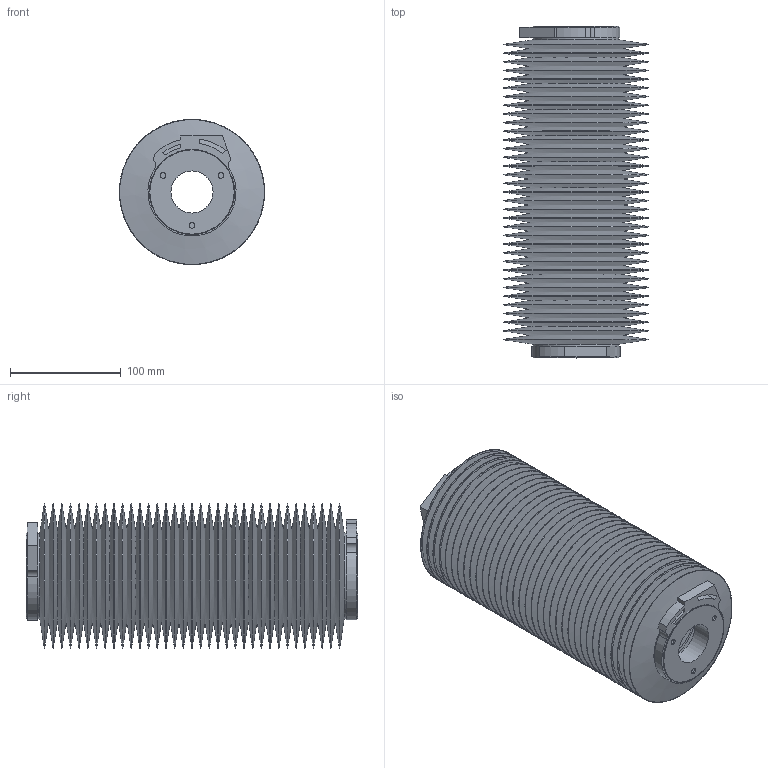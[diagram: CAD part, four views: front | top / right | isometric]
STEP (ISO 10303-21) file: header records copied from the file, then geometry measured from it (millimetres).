
FILE_DESCRIPTION (( 'STEP AP203' ), '1' );
FILE_NAME ('BTS-38-300-070.STEP', '2012-12-11T17:00:01', ( 'Eng-6' ), ( 'Hewlett-Packard Company' ), 'SwSTEP 2.0', 'SolidWorks 2012', '' );
FILE_SCHEMA (( 'CONFIG_CONTROL_DESIGN' ));
Length unit declared in the file: inch
Products named in the file (1): BTS-38-300-070
Bounding box: 131.18 x 299.95 x 131.19 mm (x, y, z)
Surface area: 670706.5 mm2 (no closed solid volume)
Topology: 0 solids, 17 shells, 169 faces, 428 edges, 265 vertices
Faces by surface type: cone 76, bspline 35, cylinder 34, plane 24
Full cylindrical faces by diameter (mm): 5.207 x6, 8.712 x6, 38.1 x2, 76.2 x2, 77.013 x2
Entity records: 5196 total; most frequent: CARTESIAN_POINT 1869, DIRECTION 708, ORIENTED_EDGE 448, AXIS2_PLACEMENT_3D 319, EDGE_LOOP 314, EDGE_CURVE 262, VERTEX_POINT 228, FACE_OUTER_BOUND 222
